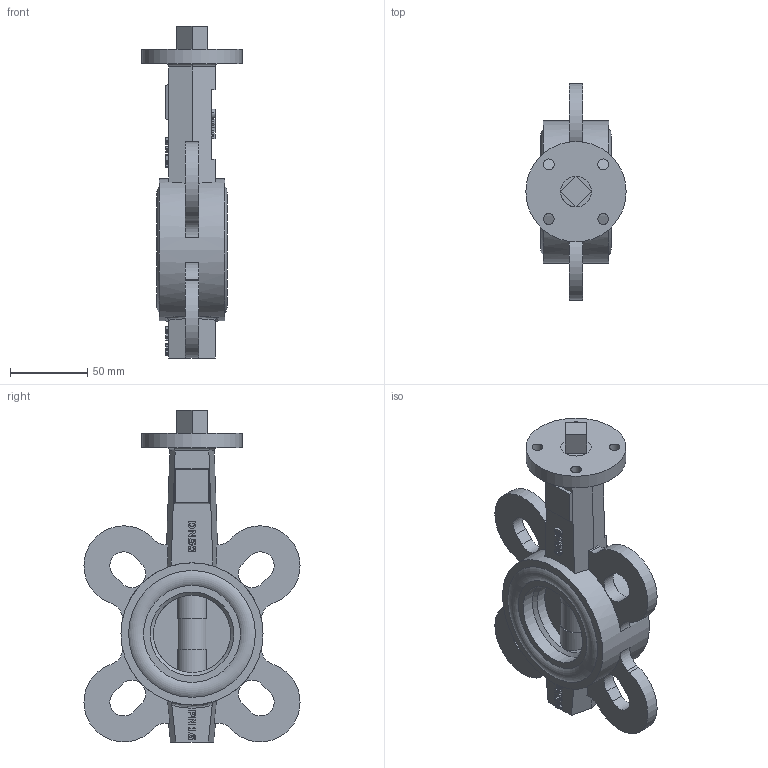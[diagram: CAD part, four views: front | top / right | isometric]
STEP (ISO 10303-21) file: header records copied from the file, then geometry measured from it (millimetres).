
FILE_DESCRIPTION(('STEP AP242'), '1');
FILE_NAME('Ïîâîðîòíûé çàòâîð ïîä ýëåêòðîïðèâîä', '', ('UNSPECIFIED'), ('UNSPECIFIED'), 'C3D Converter', 'C3D Toolkit', '');
FILE_SCHEMA(('AP242_MANAGED_MODEL_BASED_3D_ENGINEERING_MIM_LF { 1 0 10303 442 1 1 4 }'));
Length unit declared in the file: millimetre
Products named in the file (6): П
Assembly tree (6 placements, depth 2):
  (unnamed)
    (unnamed)
    П  x2
    (unnamed)
    (unnamed)
    (unnamed)
Bounding box: 65 x 140 x 215 mm (x, y, z)
Volume: 388254.5 mm3; surface area: 124538.6 mm2
Topology: 6 solids, 6 shells, 407 faces, 1086 edges, 714 vertices
Faces by surface type: plane 195, extrusion 135, cylinder 65, bspline 4, torus 4, cone 4
Full cylindrical faces by diameter (mm): 5.721 x1, 7 x4, 14 x6, 19.799 x5, 20.235 x4, 50 x1, 54.26 x2, 62.78 x2, 65 x1, 72.42 x4, 82.06 x4, 92 x1
Entity records: 16974 total; most frequent: CARTESIAN_POINT 5329, ORIENTED_EDGE 2072, DIRECTION 1540, EDGE_CURVE 1036, VERTEX_POINT 709, VECTOR 700, LINE 565, EDGE_LOOP 499
